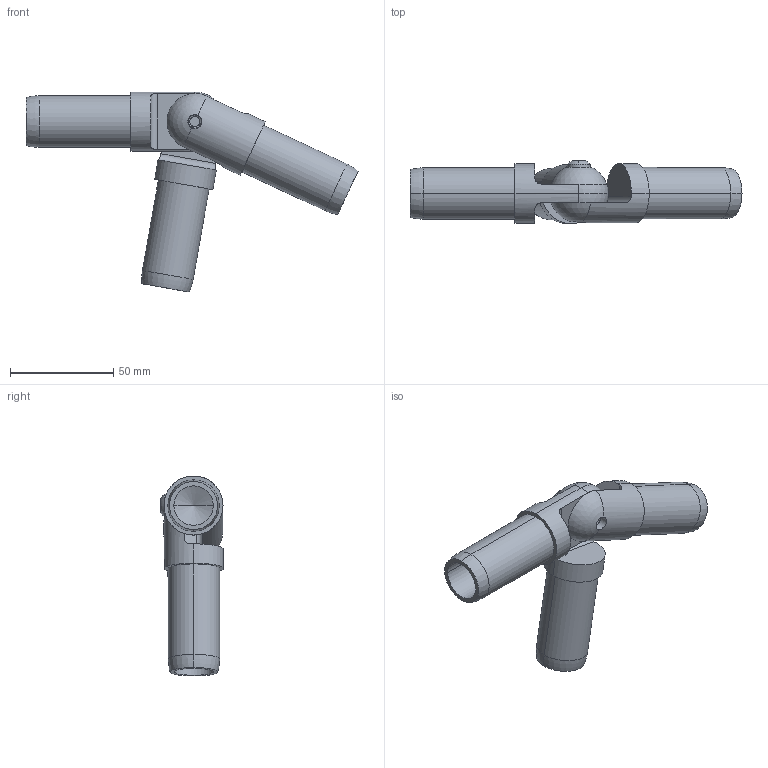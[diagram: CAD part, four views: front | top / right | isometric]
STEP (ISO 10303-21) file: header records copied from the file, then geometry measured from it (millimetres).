
FILE_DESCRIPTION (( 'STEP AP214' ), '1' );
FILE_NAME ('1 Inch In-plane Adjustable Angle 3-Tube Joint Kit.STEP', '2014-01-10T16:40:57', ( 'ydmin' ), ( 'Microsoft' ), 'SwSTEP 2.0', 'SolidWorks 2013', '' );
FILE_SCHEMA (( 'AUTOMOTIVE_DESIGN' ));
Length unit declared in the file: inch
Products named in the file (1): 1 Inch In-plane Adjustable Angle 3-Tube Joint Kit
Bounding box: 160.64 x 30.45 x 96.75 mm (x, y, z)
Volume: 65675.5 mm3; surface area: 34974.2 mm2
Topology: 5 solids, 5 shells, 225 faces, 484 edges, 270 vertices
Faces by surface type: cylinder 91, cone 81, plane 33, bspline 8, torus 6, sphere 6
Entity records: 12412 total; most frequent: CARTESIAN_POINT 4717, DIRECTION 985, ORIENTED_EDGE 956, EDGE_CURVE 478, AXIS2_PLACEMENT_3D 390, VERTEX_POINT 270, EDGE_LOOP 238, UNCERTAINTY_MEASURE_WITH_UNIT 232
